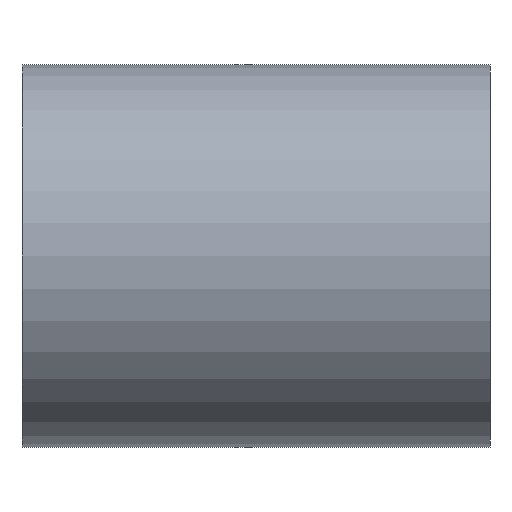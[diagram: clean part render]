
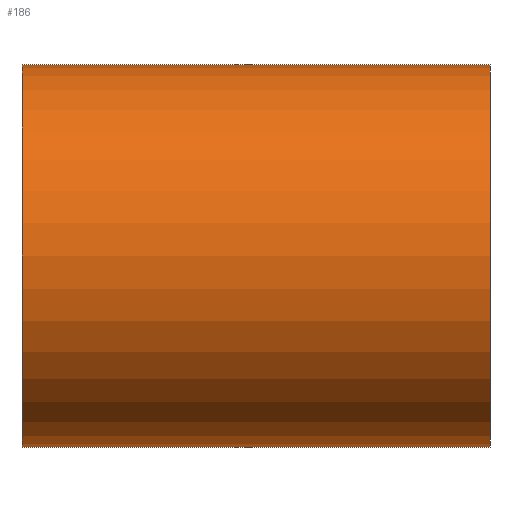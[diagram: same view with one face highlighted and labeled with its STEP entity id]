
A CAD part, front view. The second image highlights one B-rep face of the part: STEP entity #186.
In plain terms, the highlighted cylindrical face has radius 435 mm (diameter 870 mm), a partial arc.
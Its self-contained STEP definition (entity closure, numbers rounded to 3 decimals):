
#186=ADVANCED_FACE('',(#374),#375,.T.);
#374=FACE_OUTER_BOUND('',#589,.T.);
#375=CYLINDRICAL_SURFACE('',#590,435.0);
#589=EDGE_LOOP('',(#1079,#1080,#1081,#1082));
#590=AXIS2_PLACEMENT_3D('',#1083,#1084,#1085);
#1079=ORIENTED_EDGE('',*,*,#1167,.T.);
#1080=ORIENTED_EDGE('',*,*,#1373,.F.);
#1081=ORIENTED_EDGE('',*,*,#1169,.T.);
#1082=ORIENTED_EDGE('',*,*,#1374,.F.);
#1083=CARTESIAN_POINT('',(0.0,0.0,0.0));
#1084=DIRECTION('',(1.0,0.0,0.0));
#1085=DIRECTION('',(0.0,0.0,-1.0));
#1167=EDGE_CURVE('',#1378,#1379,#1380,.T.);
#1169=EDGE_CURVE('',#1383,#1381,#1384,.T.);
#1373=EDGE_CURVE('',#1383,#1379,#1687,.T.);
#1374=EDGE_CURVE('',#1378,#1381,#1688,.T.);
#1378=VERTEX_POINT('',#1692);
#1379=VERTEX_POINT('',#1693);
#1380=LINE('',#1694,#1695);
#1381=VERTEX_POINT('',#1696);
#1383=VERTEX_POINT('',#1698);
#1384=LINE('',#1699,#1700);
#1687=CIRCLE('',#2063,435.0);
#1688=CIRCLE('',#2064,435.0);
#1692=CARTESIAN_POINT('',(-532.5,0.0,-435.0));
#1693=CARTESIAN_POINT('',(532.5,0.0,-435.0));
#1694=CARTESIAN_POINT('',(0.0,0.,-435.0));
#1695=VECTOR('',#2067,1.0);
#1696=CARTESIAN_POINT('',(-532.5,0.,435.0));
#1698=CARTESIAN_POINT('',(532.5,0.,435.0));
#1699=CARTESIAN_POINT('',(0.0,0.,435.0));
#1700=VECTOR('',#2071,1.0);
#2063=AXIS2_PLACEMENT_3D('',#2402,#2403,#2404);
#2064=AXIS2_PLACEMENT_3D('',#2405,#2406,#2407);
#2067=DIRECTION('',(1.0,0.0,0.0));
#2071=DIRECTION('',(-1.0,-0.0,-0.0));
#2402=CARTESIAN_POINT('',(532.5,0.0,0.0));
#2403=DIRECTION('',(1.0,0.0,0.0));
#2404=DIRECTION('',(0.0,0.0,-1.0));
#2405=CARTESIAN_POINT('',(-532.5,0.0,0.0));
#2406=DIRECTION('',(-1.0,0.0,0.0));
#2407=DIRECTION('',(0.0,0.0,-1.0));
